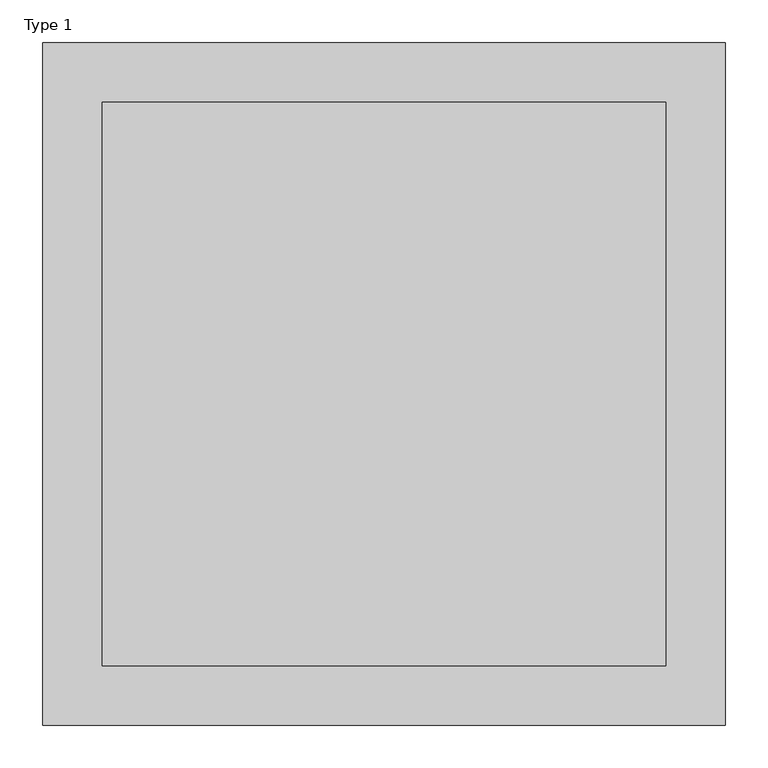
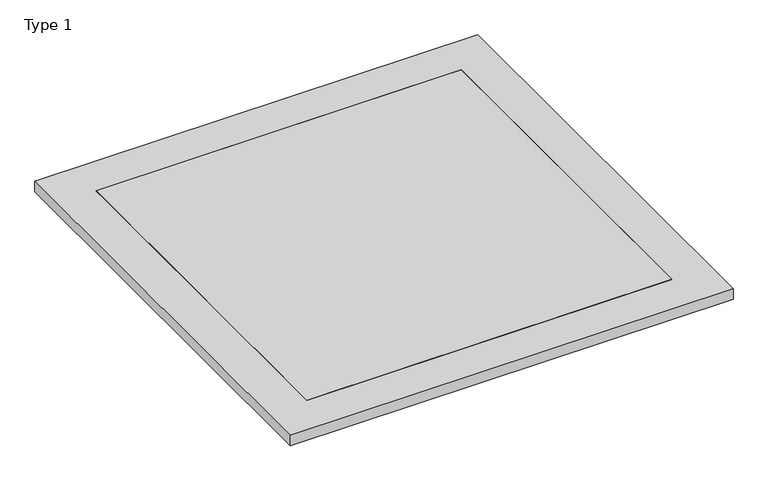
"""IFC4 building model written with IfcOpenShell, lengths in millimetres: proxy geometry, Trappe d'accès en plafond : Type 1."""

from ifc_helpers import new_model, si_unit, frame, origin, place, context, project, spatial, polyline, outline, extrude, faceted_brep, source, transform, mapped, element, save


def type_1_b38d5ac5(model_context):
    return source(origin(), model_context, "Body", "SolidModel", [
        extrude(outline(polyline([(330.0, 330.0), (330.0, -330.0), (-330.0, -330.0), (-330.0, 330.0), (330.0, 330.0)])), frame((0.0, 0.0, 4000.0), z_axis=(0.0, 0.0, 1.0), x_axis=(1.0, 0.0, 0.0)), (0.0, 0.0, 1.0), 20.0),
        faceted_brep([(400.0, 400.0, 4000.0), (400.0, 400.0, 4020.0), (400.0, -400.0, 4020.0), (400.0, -400.0, 4000.0), (365.0, 365.0, 4010.0), (365.0, 365.0, 4000.0), (365.0, -365.0, 4000.0), (365.0, -365.0, 4010.0), (330.0, 330.0, 4020.0), (330.0, 330.0, 4010.0), (330.0, -330.0, 4010.0), (330.0, -330.0, 4020.0), (-400.0, -400.0, 4020.0), (-400.0, -400.0, 4000.0), (-365.0, -365.0, 4000.0), (-365.0, -365.0, 4010.0), (-330.0, -330.0, 4010.0), (-330.0, -330.0, 4020.0), (-400.0, 400.0, 4020.0), (-400.0, 400.0, 4000.0), (-365.0, 365.0, 4000.0), (-365.0, 365.0, 4010.0), (-330.0, 330.0, 4010.0), (-330.0, 330.0, 4020.0)], [[[0, 1, 2, 3]], [[4, 5, 6, 7]], [[8, 9, 10, 11]], [[3, 2, 12, 13]], [[7, 6, 14, 15]], [[11, 10, 16, 17]], [[13, 12, 18, 19]], [[15, 14, 20, 21]], [[17, 16, 22, 23]], [[19, 18, 1, 0]], [[3, 13, 19, 0], [5, 20, 14, 6]], [[21, 20, 5, 4]], [[7, 15, 21, 4], [9, 22, 16, 10]], [[23, 22, 9, 8]], [[1, 18, 12, 2], [11, 17, 23, 8]]]),
    ])


if __name__ == "__main__":
    model = new_model("IFC4")
    model_context = context("Model", 3, world=origin())
    ifc_project = project(units=[si_unit("LENGTHUNIT", "METRE", prefix="MILLI")], contexts=[model_context])
    site = spatial("IfcSite", under=ifc_project)
    building = spatial("IfcBuilding", under=site)
    placement = place(None, origin())
    type_1_shape = type_1_b38d5ac5(model_context)
    element("IfcBuildingElementProxy", 1, Name="Trappe d'accès en plafond : Type 1", ObjectType="Trappe d'accès en plafond : Type 1", at=placement, inside=building, context=model_context, shape_type="MappedRepresentation", body=[
        mapped(type_1_shape, transform((0.0, 0.0, 0.0), x_axis=(1.0, 0.0, 0.0), y_axis=(0.0, 1.0, 0.0), z_axis=(0.0, 0.0, 1.0))),
    ])
    save(model, "model.ifc")
